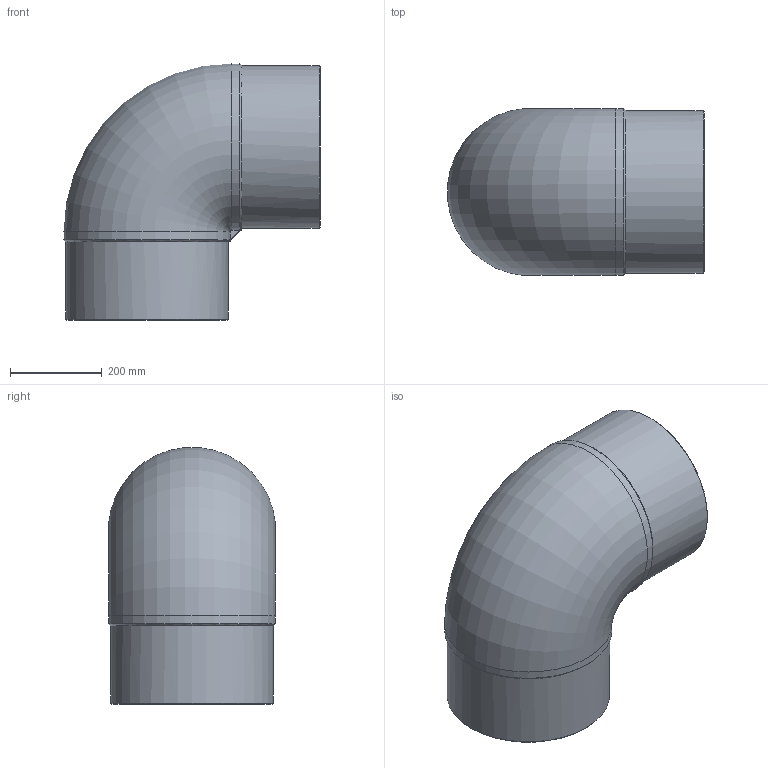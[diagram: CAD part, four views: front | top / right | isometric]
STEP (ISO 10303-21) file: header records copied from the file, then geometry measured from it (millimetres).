
FILE_DESCRIPTION(/* description */ ('Unknown'),/* implementation_level */ '2;1');
FILE_NAME(/* name */ 'G9P355C',/* time_stamp */ '2021-11-25T12:51:34+01:00',/* author */ ('Unknown'),/* organization */ ('Unknown'),/* preprocessor_version */ 'ST-DEVELOPER v16.7',/* originating_system */ 'Solid Edge',/* authorisation */ 'Unknown');
FILE_SCHEMA (('AUTOMOTIVE_DESIGN {1 0 10303 214 3 1 1}'));
Length unit declared in the file: millimetre
Products named in the file (1): G9P355C
Bounding box: 559.8 x 363.69 x 559.8 mm (x, y, z)
Volume: 24326149.1 mm3; surface area: 1452237.1 mm2
Topology: 1 solids, 1 shells, 25 faces, 65 edges, 42 vertices
Faces by surface type: cylinder 8, bspline 6, plane 5, cone 4, torus 2
Full cylindrical faces by diameter (mm): 290.6 x2, 355 x2
Entity records: 832 total; most frequent: CARTESIAN_POINT 295, ORIENTED_EDGE 106, DIRECTION 90, EDGE_CURVE 53, AXIS2_PLACEMENT_3D 41, VERTEX_POINT 38, EDGE_LOOP 35, FACE_BOUND 35
